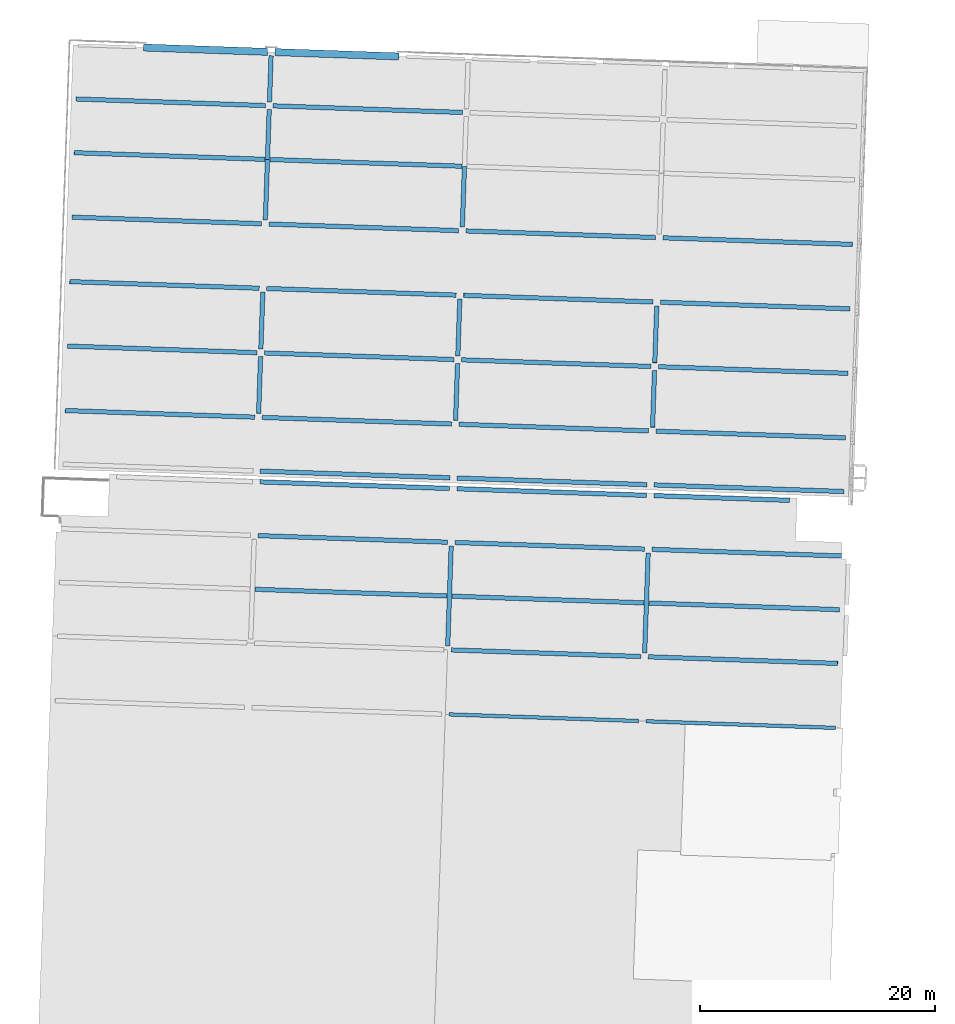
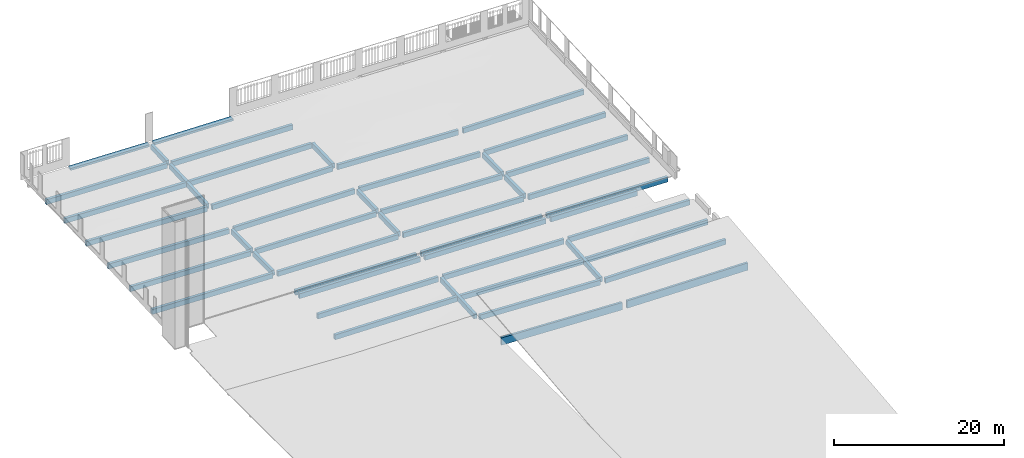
# One storey, part 4 of 17: 50 beams.
"""IFC2X3 building model written with IfcOpenShell, lengths in feet."""

from ifc_helpers import new_model, entity, si_unit, converted_unit, derived_unit, direction, frame, frame_2d, origin, origin_2d_with_axis, place, context, subcontext, project, spatial, rectangle, extrude, clip, halfspace, material, element, save


model = new_model("IFC2X3")

# Units and contexts
model_context = context("Model", 3, precision=0.0001, world=origin(), true_north=direction((0.999390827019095, 0.0348994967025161)))
body_context = subcontext(model_context, "Body", "Model", "MODEL_VIEW")
ifc_project = project(units=[converted_unit("LENGTHUNIT", "FOOT", entity("IfcRatioMeasure", 0.3048), si_unit("LENGTHUNIT", "METRE"), dimensions=[1, 0, 0, 0, 0, 0, 0]), converted_unit("AREAUNIT", "SQUARE FOOT", entity("IfcRatioMeasure", 0.09290304), si_unit("AREAUNIT", "SQUARE_METRE"), dimensions=[2, 0, 0, 0, 0, 0, 0]), converted_unit("VOLUMEUNIT", "CUBIC FOOT", entity("IfcRatioMeasure", 0.028316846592), si_unit("VOLUMEUNIT", "CUBIC_METRE"), dimensions=[3, 0, 0, 0, 0, 0, 0]), converted_unit("PLANEANGLEUNIT", "DEGREE", entity("IfcRatioMeasure", 0.0174532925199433), si_unit("PLANEANGLEUNIT", "RADIAN"), dimensions=[0, 0, 0, 0, 0, 0, 0]), si_unit("MASSUNIT", "GRAM", prefix="KILO"), si_unit("TIMEUNIT", "SECOND"), si_unit("FREQUENCYUNIT", "HERTZ"), si_unit("THERMODYNAMICTEMPERATUREUNIT", "DEGREE_CELSIUS"), derived_unit("THERMALTRANSMITTANCEUNIT", [(si_unit("MASSUNIT", "GRAM", prefix="KILO"), 1), (si_unit("THERMODYNAMICTEMPERATUREUNIT", "KELVIN"), -1), (si_unit("TIMEUNIT", "SECOND"), -3)]), derived_unit("VOLUMETRICFLOWRATEUNIT", [(si_unit("LENGTHUNIT", "METRE"), 3), (si_unit("TIMEUNIT", "SECOND"), -1)]), si_unit("ELECTRICCURRENTUNIT", "AMPERE"), si_unit("ELECTRICVOLTAGEUNIT", "VOLT"), si_unit("POWERUNIT", "WATT"), si_unit("FORCEUNIT", "NEWTON"), si_unit("ILLUMINANCEUNIT", "LUX"), si_unit("LUMINOUSFLUXUNIT", "LUMEN"), si_unit("LUMINOUSINTENSITYUNIT", "CANDELA"), derived_unit("USERDEFINED", [(si_unit("MASSUNIT", "GRAM", prefix="KILO"), -1), (si_unit("LENGTHUNIT", "METRE"), -2), (si_unit("TIMEUNIT", "SECOND"), 3), (si_unit("LUMINOUSFLUXUNIT", "LUMEN"), 1)]), derived_unit("LINEARVELOCITYUNIT", [(si_unit("LENGTHUNIT", "METRE"), 1), (si_unit("TIMEUNIT", "SECOND"), -1)]), si_unit("PRESSUREUNIT", "PASCAL"), derived_unit("USERDEFINED", [(si_unit("LENGTHUNIT", "METRE"), -2), (si_unit("MASSUNIT", "GRAM", prefix="KILO"), 1), (si_unit("TIMEUNIT", "SECOND"), -2)])], contexts=[model_context])

# Site, building, storey
site_placement = place(None, frame((892.518771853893, 322.38689265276, 0.00393700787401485), z_axis=(0.0, 0.0, 1.0), x_axis=(0.0348994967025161, 0.999390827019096, 0.0)))
site = spatial("IfcSite", under=ifc_project, at=site_placement, Name="Default", CompositionType="ELEMENT")
building_placement = place(site_placement, origin())
building = spatial("IfcBuilding", under=site, at=building_placement, CompositionType="ELEMENT")
storey_placement = place(building_placement, frame((0.0, 0.0, 557.0)))
storey = spatial("IfcBuildingStorey", under=building, at=storey_placement, Name="Existing Garage - 1st Level", CompositionType="ELEMENT", Elevation=557.0)

# Beams
ifc_material = material(Name="Concrete - Precast Concrete - Normal Weight - 5 ksi")
beam_1_placement = place(storey_placement, frame((105.927293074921, 236.763953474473, -0.63671875), z_axis=(0.0, 0.0, 1.0), x_axis=(0.0, 1.0, 0.0)))
element("IfcBeam", 1, at=beam_1_placement, inside=storey, material=ifc_material, Name="Precast-Rectangular Beam:15 x 28 (33 w/ 5\" Conc Slab)", ObjectType="Precast-Rectangular Beam:15 x 28 (33 w/ 5\" Conc Slab)", context=body_context, shape_type="SweptSolid", body=[
    extrude(rectangle(XDim=2.33333333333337, YDim=1.25000000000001, at=frame_2d((0.0, 7.105427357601e-15), x_axis=(1.0, 0.0))), frame((1.00119401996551, 0.0, -1.16666666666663), z_axis=(1.0, 0.0, 0.0), x_axis=(0.0, 0.0, -1.0)), (0.0, 0.0, 1.0), 53.0572739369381),
])
beam_2_placement = place(storey_placement, frame((105.927293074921, 346.763953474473, -0.63671875), z_axis=(0.0, 0.0, 1.0), x_axis=(0.0, -1.0, 0.0)))
element("IfcBeam", 2, at=beam_2_placement, inside=storey, material=ifc_material, Name="Precast-Rectangular Beam:15 x 28 (33 w/ 5\" Conc Slab)", ObjectType="Precast-Rectangular Beam:15 x 28 (33 w/ 5\" Conc Slab)", context=body_context, shape_type="SweptSolid", body=[
    extrude(rectangle(XDim=2.33333333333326, YDim=1.25000000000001, at=frame_2d((0.0, 7.105427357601e-15), x_axis=(1.0, 0.0))), frame((1.00119401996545, 0.0, -1.16666666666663), z_axis=(1.0, 0.0, 0.0), x_axis=(0.0, 0.0, -1.0)), (0.0, 0.0, 1.0), 53.0572739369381),
])
beam_3_placement = place(storey_placement, frame((105.927293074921, 346.763953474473, -0.63671875), z_axis=(0.0, 0.0, 1.0), x_axis=(0.0, 1.0, 0.0)))
element("IfcBeam", 3, at=beam_3_placement, inside=storey, material=ifc_material, Name="Precast-Rectangular Beam:15 x 28 (33 w/ 5\" Conc Slab)", ObjectType="Precast-Rectangular Beam:15 x 28 (33 w/ 5\" Conc Slab)", context=body_context, shape_type="SweptSolid", body=[
    extrude(rectangle(XDim=2.33333333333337, YDim=1.25000000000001, at=frame_2d((0.0, -7.105427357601e-15), x_axis=(1.0, 0.0))), frame((1.00119401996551, 0.0, -1.16666666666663), z_axis=(1.0, 0.0, 0.0), x_axis=(0.0, 0.0, -1.0)), (0.0, 0.0, 1.0), 53.0572739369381),
])
beam_4_placement = place(storey_placement, frame((120.927293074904, 236.763953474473, -0.916666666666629), z_axis=(0.0, 0.00400091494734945, 0.999991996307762), x_axis=(0.0, 0.999991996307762, -0.00400091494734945)))
element("IfcBeam", 4, at=beam_4_placement, inside=storey, material=ifc_material, Name="Precast-Rectangular Beam:15 x 28 (33 w/ 5\" Conc Slab)", ObjectType="Precast-Rectangular Beam:15 x 28 (33 w/ 5\" Conc Slab)", context=body_context, shape_type="SweptSolid", body=[
    extrude(rectangle(XDim=2.33333333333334, YDim=1.25000000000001, at=frame_2d((1.11022302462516e-16, 7.105427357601e-15), x_axis=(1.0, 0.0))), frame((1.05101021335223, 0.0, -1.16666666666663), z_axis=(1.0, 0.0, 0.0), x_axis=(0.0, 0.0, -1.0)), (0.0, 0.0, 1.0), 52.9077553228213),
])
beam_5_placement = place(storey_placement, frame((120.927293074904, 346.763953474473, -0.916666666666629), z_axis=(0.0, -0.00400091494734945, 0.999991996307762), x_axis=(0.0, -0.999991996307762, -0.00400091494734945)))
element("IfcBeam", 5, at=beam_5_placement, inside=storey, material=ifc_material, Name="Precast-Rectangular Beam:15 x 28 (33 w/ 5\" Conc Slab)", ObjectType="Precast-Rectangular Beam:15 x 28 (33 w/ 5\" Conc Slab)", context=body_context, shape_type="SweptSolid", body=[
    extrude(rectangle(XDim=2.33333333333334, YDim=1.25000000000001, at=frame_2d((0.0, 7.105427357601e-15), x_axis=(1.0, 0.0))), frame((1.05101021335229, 0.0, -1.16666666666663), z_axis=(1.0, 0.0, 0.0), x_axis=(0.0, 0.0, -1.0)), (0.0, 0.0, 1.0), 52.9077553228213),
])
beam_6_placement = place(storey_placement, frame((120.927293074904, 346.763953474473, -0.916666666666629), z_axis=(0.0, 0.00400091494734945, 0.999991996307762), x_axis=(0.0, 0.999991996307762, -0.00400091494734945)))
element("IfcBeam", 6, at=beam_6_placement, inside=storey, material=ifc_material, Name="Precast-Rectangular Beam:15 x 28 (33 w/ 5\" Conc Slab)", ObjectType="Precast-Rectangular Beam:15 x 28 (33 w/ 5\" Conc Slab)", context=body_context, shape_type="SweptSolid", body=[
    extrude(rectangle(XDim=2.33333333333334, YDim=1.25000000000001, at=frame_2d((-1.11022302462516e-16, -7.105427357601e-15), x_axis=(1.0, 0.0))), frame((1.05101021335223, 0.0, -1.16666666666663), z_axis=(1.0, 0.0, 0.0), x_axis=(0.0, 0.0, -1.0)), (0.0, 0.0, 1.0), 52.9077553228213),
])
beam_7_placement = place(storey_placement, frame((120.927293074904, 456.763953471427, -0.916666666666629), z_axis=(0.0, -0.00400091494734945, 0.999991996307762), x_axis=(0.0, -0.999991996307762, -0.00400091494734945)))
element("IfcBeam", 7, at=beam_7_placement, inside=storey, material=ifc_material, Name="Precast-Rectangular Beam:15 x 28 (33 w/ 5\" Conc Slab)", ObjectType="Precast-Rectangular Beam:15 x 28 (33 w/ 5\" Conc Slab)", context=body_context, shape_type="SweptSolid", body=[
    extrude(rectangle(XDim=2.33333333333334, YDim=1.25000000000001, at=frame_2d((0.0, -7.105427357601e-15), x_axis=(1.0, 0.0))), frame((1.05101021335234, 0.0, -1.16666666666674), z_axis=(1.0, 0.0, 0.0), x_axis=(0.0, 0.0, -1.0)), (0.0, 0.0, 1.0), 52.9077553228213),
])
beam_8_placement = place(storey_placement, frame((138.927293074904, 236.763953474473, -1.32667000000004), z_axis=(0.0, 0.00854514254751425, 0.999963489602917), x_axis=(0.0, 0.999963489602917, -0.00854514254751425)))
element("IfcBeam", 8, at=beam_8_placement, inside=storey, material=ifc_material, Name="Precast-Rectangular Beam:15 x 28 (33 w/ 5\" Conc Slab)", ObjectType="Precast-Rectangular Beam:15 x 28 (33 w/ 5\" Conc Slab)", context=body_context, shape_type="SweptSolid", body=[
    extrude(rectangle(XDim=2.33333333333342, YDim=1.25, at=frame_2d((-1.13686837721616e-13, -1.4210854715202e-14), x_axis=(1.0, 0.0))), frame((1.06164257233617, 0.0, -1.16666666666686), z_axis=(1.0, 0.0, 0.0), x_axis=(0.0, 0.0, -1.0)), (0.0, 0.0, 1.0), 52.8986623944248),
])
beam_9_placement = place(storey_placement, frame((138.927293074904, 346.763953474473, -1.32667000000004), z_axis=(0.0, -0.00854514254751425, 0.999963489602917), x_axis=(0.0, -0.999963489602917, -0.00854514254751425)))
element("IfcBeam", 9, at=beam_9_placement, inside=storey, material=ifc_material, Name="Precast-Rectangular Beam:15 x 28 (33 w/ 5\" Conc Slab)", ObjectType="Precast-Rectangular Beam:15 x 28 (33 w/ 5\" Conc Slab)", context=body_context, shape_type="SweptSolid", body=[
    extrude(rectangle(XDim=2.3333333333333, YDim=1.25, at=frame_2d((1.13686837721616e-13, 0.0), x_axis=(1.0, 0.0))), frame((1.06164257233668, 0.0, -1.16666666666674), z_axis=(1.0, 0.0, 0.0), x_axis=(0.0, 0.0, -1.0)), (0.0, 0.0, 1.0), 52.8986623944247),
])
beam_10_placement = place(storey_placement, frame((138.927293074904, 346.763953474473, -1.32667000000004), z_axis=(0.0, 0.00854514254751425, 0.999963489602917), x_axis=(0.0, 0.999963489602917, -0.00854514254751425)))
element("IfcBeam", 10, at=beam_10_placement, inside=storey, material=ifc_material, Name="Precast-Rectangular Beam:15 x 28 (33 w/ 5\" Conc Slab)", ObjectType="Precast-Rectangular Beam:15 x 28 (33 w/ 5\" Conc Slab)", context=body_context, shape_type="SweptSolid", body=[
    extrude(rectangle(XDim=2.33333333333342, YDim=1.25, at=frame_2d((-1.13686837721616e-13, 0.0), x_axis=(1.0, 0.0))), frame((1.06164257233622, 0.0, -1.16666666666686), z_axis=(1.0, 0.0, 0.0), x_axis=(0.0, 0.0, -1.0)), (0.0, 0.0, 1.0), 52.8986623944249),
])
beam_11_placement = place(storey_placement, frame((138.927293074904, 456.763953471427, -1.32667000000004), z_axis=(0.0, -0.00854514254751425, 0.999963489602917), x_axis=(0.0, -0.999963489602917, -0.00854514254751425)))
element("IfcBeam", 11, at=beam_11_placement, inside=storey, material=ifc_material, Name="Precast-Rectangular Beam:15 x 28 (33 w/ 5\" Conc Slab)", ObjectType="Precast-Rectangular Beam:15 x 28 (33 w/ 5\" Conc Slab)", context=body_context, shape_type="SweptSolid", body=[
    extrude(rectangle(XDim=2.3333333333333, YDim=1.25000000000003, at=frame_2d((1.13686837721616e-13, 1.4210854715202e-14), x_axis=(1.0, 0.0))), frame((1.06164257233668, 0.0, -1.16666666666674), z_axis=(1.0, 0.0, 0.0), x_axis=(0.0, 0.0, -1.0)), (0.0, 0.0, 1.0), 52.8986623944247),
])
beam_12_placement = place(storey_placement, frame((156.927293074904, 236.763953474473, -1.72667000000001), z_axis=(0.0, 0.0130897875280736, 0.999914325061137), x_axis=(0.0, 0.999914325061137, -0.0130897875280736)))
element("IfcBeam", 12, at=beam_12_placement, inside=storey, material=ifc_material, Name="Precast-Rectangular Beam:15 x 28 (33 w/ 5\" Conc Slab)", ObjectType="Precast-Rectangular Beam:15 x 28 (33 w/ 5\" Conc Slab)", context=body_context, shape_type="SweptSolid", body=[
    extrude(rectangle(XDim=2.33333333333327, YDim=1.25, at=frame_2d((0.0, -1.4210854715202e-14), x_axis=(1.0, 0.0))), frame((1.07229780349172, 0.0, -1.16666666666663), z_axis=(1.0, 0.0, 0.0), x_axis=(0.0, 0.0, -1.0)), (0.0, 0.0, 1.0), 52.8906623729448),
])
beam_13_placement = place(storey_placement, frame((156.927293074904, 346.763953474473, -1.72667000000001), z_axis=(0.0, -0.0130897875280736, 0.999914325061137), x_axis=(0.0, -0.999914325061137, -0.0130897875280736)))
element("IfcBeam", 13, at=beam_13_placement, inside=storey, material=ifc_material, Name="Precast-Rectangular Beam:15 x 28 (33 w/ 5\" Conc Slab)", ObjectType="Precast-Rectangular Beam:15 x 28 (33 w/ 5\" Conc Slab)", context=body_context, shape_type="SweptSolid", body=[
    extrude(rectangle(XDim=2.33333333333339, YDim=1.25, at=frame_2d((4.44089209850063e-16, 0.0), x_axis=(1.0, 0.0))), frame((1.07229780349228, 0.0, -1.16666666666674), z_axis=(1.0, 0.0, 0.0), x_axis=(0.0, 0.0, -1.0)), (0.0, 0.0, 1.0), 52.8906623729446),
])
beam_14_placement = place(storey_placement, frame((156.927293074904, 346.763953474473, -1.72667000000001), z_axis=(0.0, 0.0130897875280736, 0.999914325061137), x_axis=(0.0, 0.999914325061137, -0.0130897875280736)))
element("IfcBeam", 14, at=beam_14_placement, inside=storey, material=ifc_material, Name="Precast-Rectangular Beam:15 x 28 (33 w/ 5\" Conc Slab)", ObjectType="Precast-Rectangular Beam:15 x 28 (33 w/ 5\" Conc Slab)", context=body_context, shape_type="SweptSolid", body=[
    extrude(rectangle(XDim=2.33333333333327, YDim=1.25, at=origin_2d_with_axis()), frame((1.07229780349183, 0.0, -1.16666666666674), z_axis=(1.0, 0.0, 0.0), x_axis=(0.0, 0.0, -1.0)), (0.0, 0.0, 1.0), 52.8906623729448),
])
beam_15_placement = place(storey_placement, frame((156.927293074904, 456.763953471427, -1.72667000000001), z_axis=(0.0, -0.0130897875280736, 0.999914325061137), x_axis=(0.0, -0.999914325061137, -0.0130897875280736)))
element("IfcBeam", 15, at=beam_15_placement, inside=storey, material=ifc_material, Name="Precast-Rectangular Beam:15 x 28 (33 w/ 5\" Conc Slab)", ObjectType="Precast-Rectangular Beam:15 x 28 (33 w/ 5\" Conc Slab)", context=body_context, shape_type="SweptSolid", body=[
    extrude(rectangle(XDim=2.33333333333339, YDim=1.25000000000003, at=frame_2d((-4.44089209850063e-16, 1.4210854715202e-14), x_axis=(1.0, 0.0))), frame((1.07229780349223, 0.0, -1.16666666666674), z_axis=(1.0, 0.0, 0.0), x_axis=(0.0, 0.0, -1.0)), (0.0, 0.0, 1.0), 52.8906623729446),
])
beam_16_placement = place(storey_placement, frame((174.927293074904, 236.763953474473, -2.12666999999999), z_axis=(0.0, 0.0178153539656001, 0.999841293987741), x_axis=(0.0, 0.999841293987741, -0.0178153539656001)))
element("IfcBeam", 16, at=beam_16_placement, inside=storey, material=ifc_material, Name="Precast-Rectangular Beam:15 x 28 (33 w/ 5\" Conc Slab)", ObjectType="Precast-Rectangular Beam:15 x 28 (33 w/ 5\" Conc Slab)", context=body_context, shape_type="SweptSolid", body=[
    extrude(rectangle(XDim=2.33333333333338, YDim=1.25, at=frame_2d((-1.13686837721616e-13, -1.4210854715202e-14), x_axis=(1.0, 0.0))), frame((1.08340115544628, 0.0, -1.16666666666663), z_axis=(1.0, 0.0, 0.0), x_axis=(0.0, 0.0, -1.0)), (0.0, 0.0, 1.0), 52.8835036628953),
])
beam_17_placement = place(storey_placement, frame((174.927293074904, 346.763953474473, -2.12666999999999), z_axis=(0.0, -0.0178153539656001, 0.999841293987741), x_axis=(0.0, -0.999841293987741, -0.0178153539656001)))
element("IfcBeam", 17, at=beam_17_placement, inside=storey, material=ifc_material, Name="Precast-Rectangular Beam:15 x 28 (33 w/ 5\" Conc Slab)", ObjectType="Precast-Rectangular Beam:15 x 28 (33 w/ 5\" Conc Slab)", context=body_context, shape_type="SweptSolid", body=[
    extrude(rectangle(XDim=2.33333333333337, YDim=1.25, at=frame_2d((1.13686837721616e-13, 0.0), x_axis=(1.0, 0.0))), frame((1.08340115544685, 0.0, -1.16666666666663), z_axis=(1.0, 0.0, 0.0), x_axis=(0.0, 0.0, -1.0)), (0.0, 0.0, 1.0), 52.8835036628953),
])
beam_18_placement = place(storey_placement, frame((174.927293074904, 346.763953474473, -2.12666999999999), z_axis=(0.0, 0.0178153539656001, 0.999841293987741), x_axis=(0.0, 0.999841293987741, -0.0178153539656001)))
element("IfcBeam", 18, at=beam_18_placement, inside=storey, material=ifc_material, Name="Precast-Rectangular Beam:15 x 28 (33 w/ 5\" Conc Slab)", ObjectType="Precast-Rectangular Beam:15 x 28 (33 w/ 5\" Conc Slab)", context=body_context, shape_type="SweptSolid", body=[
    extrude(rectangle(XDim=2.33333333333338, YDim=1.25, at=frame_2d((-1.13686837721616e-13, 0.0), x_axis=(1.0, 0.0))), frame((1.08340115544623, 0.0, -1.16666666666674), z_axis=(1.0, 0.0, 0.0), x_axis=(0.0, 0.0, -1.0)), (0.0, 0.0, 1.0), 52.8835036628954),
])
beam_19_placement = place(storey_placement, frame((174.927293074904, 456.763953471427, -2.12666999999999), z_axis=(0.0, -0.0178153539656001, 0.999841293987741), x_axis=(0.0, -0.999841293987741, -0.0178153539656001)))
element("IfcBeam", 19, at=beam_19_placement, inside=storey, material=ifc_material, Name="Precast-Rectangular Beam:15 x 28 (33 w/ 5\" Conc Slab)", ObjectType="Precast-Rectangular Beam:15 x 28 (33 w/ 5\" Conc Slab)", context=body_context, shape_type="SweptSolid", body=[
    extrude(rectangle(XDim=2.33333333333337, YDim=1.25000000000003, at=frame_2d((1.13686837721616e-13, -1.4210854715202e-14), x_axis=(1.0, 0.0))), frame((1.08340115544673, 0.0, -1.16666666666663), z_axis=(1.0, 0.0, 0.0), x_axis=(0.0, 0.0, -1.0)), (0.0, 0.0, 1.0), 52.8835036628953),
])
beam_20_placement = place(storey_placement, frame((174.927293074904, 346.763953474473, -2.12666999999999), z_axis=(0.0222167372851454, 0.0, 0.99975317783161), x_axis=(0.99975317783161, 0.0, -0.0222167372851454)))
element("IfcBeam", 20, at=beam_20_placement, inside=storey, material=ifc_material, Name="Precast-Rectangular Beam:15 x 28 (33 w/ 5\" Conc Slab)", ObjectType="Precast-Rectangular Beam:15 x 28 (33 w/ 5\" Conc Slab)", context=body_context, shape_type="SweptSolid", body=[
    extrude(rectangle(XDim=2.3333333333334, YDim=1.25, at=origin_2d_with_axis()), frame((1.09376540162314, 0.0, -1.16666666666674), z_axis=(1.0, 0.0, 0.0), x_axis=(0.0, 0.0, -1.0)), (0.0, 0.0, 1.0), 16.9106784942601),
])
beam_21_placement = place(storey_placement, frame((174.927293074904, 401.763953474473, -3.10667000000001), z_axis=(-0.0133321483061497, 0.0, 0.999911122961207), x_axis=(0.999911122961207, 0.0, 0.0133321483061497)))
element("IfcBeam", 21, at=beam_21_placement, inside=storey, material=ifc_material, Name="Precast-Rectangular Beam:15 x 28 (33 w/ 5\" Conc Slab)", ObjectType="Precast-Rectangular Beam:15 x 28 (33 w/ 5\" Conc Slab)", context=body_context, shape_type="Clipping", body=[
    clip(extrude(rectangle(XDim=2.33333333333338, YDim=1.25, at=origin_2d_with_axis()), frame((1.04175555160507, 0.0, -1.16666666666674), z_axis=(1.0, 0.0, 0.0), x_axis=(0.0, 0.0, -1.0)), (0.0, 0.0, 1.0), 16.959844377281), halfspace(frame((18.0015999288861, 0.0, 0.0), z_axis=(0.999931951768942, 0.0, -0.0116658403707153), x_axis=(0.0, 1.0, 0.0)), False)),
])
beam_22_placement = place(storey_placement, frame((192.927293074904, 401.763953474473, -2.86667), z_axis=(0.00999950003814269, 0.0, 0.999950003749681), x_axis=(0.999950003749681, 0.0, -0.00999950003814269)))
element("IfcBeam", 22, at=beam_22_placement, inside=storey, material=ifc_material, Name="Precast-Rectangular Beam:15 x 28 (33 w/ 5\" Conc Slab)", ObjectType="Precast-Rectangular Beam:15 x 28 (33 w/ 5\" Conc Slab)", context=body_context, shape_type="Clipping", body=[
    clip(extrude(rectangle(XDim=2.33333333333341, YDim=1.25, at=origin_2d_with_axis()), frame((0.0, 0.0, -1.16666666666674), z_axis=(1.0, 0.0, 0.0), x_axis=(0.0, 0.0, -1.0)), (0.0, 0.0, 1.0), 13.9590333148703), halfspace(frame((0.0, 0.0, 0.0), z_axis=(-0.999931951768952, 0.0, -0.0116658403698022), x_axis=(0.0, -1.0, 0.0)), False)),
])
beam_23_placement = place(storey_placement, frame((120.927293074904, 291.763953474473, -1.13666999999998), z_axis=(0.0366420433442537, 0.0, 0.99932845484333), x_axis=(0.99932845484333, 0.0, -0.0366420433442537)))
element("IfcBeam", 23, at=beam_23_placement, inside=storey, material=ifc_material, Name="Precast-Rectangular Beam:15 x 28 (33 w/ 5\" Conc Slab)", ObjectType="Precast-Rectangular Beam:15 x 28 (33 w/ 5\" Conc Slab)", context=body_context, shape_type="SweptSolid", body=[
    extrude(rectangle(XDim=2.33333333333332, YDim=1.25, at=frame_2d((-5.7065463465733e-14, 0.0), x_axis=(1.0, 0.0))), frame((1.12789421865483, 0.0, -1.16666666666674), z_axis=(1.0, 0.0, 0.0), x_axis=(0.0, 0.0, -1.0)), (0.0, 0.0, 1.0), 15.841863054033),
])
beam_24_placement = place(storey_placement, frame((138.927293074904, 291.763953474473, -1.79666999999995), z_axis=(0.036087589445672, 0.0, 0.999348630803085), x_axis=(0.999348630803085, 0.0, -0.036087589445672)))
element("IfcBeam", 24, at=beam_24_placement, inside=storey, material=ifc_material, Name="Precast-Rectangular Beam:15 x 28 (33 w/ 5\" Conc Slab)", ObjectType="Precast-Rectangular Beam:15 x 28 (33 w/ 5\" Conc Slab)", context=body_context, shape_type="SweptSolid", body=[
    extrude(rectangle(XDim=2.3333333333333, YDim=1.25, at=frame_2d((1.13575815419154e-13, 0.0), x_axis=(1.0, 0.0))), frame((1.12657771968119, 0.0, -1.16666666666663), z_axis=(1.0, 0.0, 0.0), x_axis=(0.0, 0.0, -1.0)), (0.0, 0.0, 1.0), 15.842836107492),
])
beam_25_placement = place(storey_placement, frame((192.927293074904, 346.763953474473, -2.52666999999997), z_axis=(0.0, 0.00618170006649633, 0.999980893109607), x_axis=(0.0, 0.999980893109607, -0.00618170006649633)))
element("IfcBeam", 25, at=beam_25_placement, inside=storey, material=ifc_material, Name="Precast-Rectangular Beam:15 x 28 (33 w/ 5\" Conc Slab)", ObjectType="Precast-Rectangular Beam:15 x 28 (33 w/ 5\" Conc Slab)", context=body_context, shape_type="SweptSolid", body=[
    extrude(rectangle(XDim=2.33333333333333, YDim=1.25, at=frame_2d((-5.6843418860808e-14, 1.4210854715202e-14), x_axis=(1.0, 0.0))), frame((0.681169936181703, 0.0, -1.16666666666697), z_axis=(1.0, 0.0, 0.0), x_axis=(0.0, 0.0, -1.0)), (0.0, 0.0, 1.0), 53.6531876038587),
])
beam_26_placement = place(storey_placement, frame((192.927293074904, 456.763953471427, -2.52666999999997), z_axis=(0.0, -0.00618170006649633, 0.999980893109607), x_axis=(0.0, -0.999980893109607, -0.00618170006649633)))
element("IfcBeam", 26, at=beam_26_placement, inside=storey, material=ifc_material, Name="Precast-Rectangular Beam:15 x 28 (33 w/ 5\" Conc Slab)", ObjectType="Precast-Rectangular Beam:15 x 28 (33 w/ 5\" Conc Slab)", context=body_context, shape_type="SweptSolid", body=[
    extrude(rectangle(XDim=2.33333333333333, YDim=1.25, at=frame_2d((-5.6843418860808e-14, 0.0), x_axis=(1.0, 0.0))), frame((1.05611001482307, 0.0, -1.16666666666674), z_axis=(1.0, 0.0, 0.0), x_axis=(0.0, 0.0, -1.0)), (0.0, 0.0, 1.0), 53.2782861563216),
])
beam_27_placement = place(storey_placement, frame((207.927293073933, 346.763953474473, -2.86667), z_axis=(0.0, 0.00272726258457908, 0.999996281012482), x_axis=(0.0, 0.999996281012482, -0.00272726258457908)))
element("IfcBeam", 27, at=beam_27_placement, inside=storey, material=ifc_material, Name="Precast-Rectangular Beam:15 x 28 (33 w/ 5\" Conc Slab)", ObjectType="Precast-Rectangular Beam:15 x 28 (33 w/ 5\" Conc Slab)", context=body_context, shape_type="SweptSolid", body=[
    extrude(rectangle(XDim=2.33333333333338, YDim=1.25, at=frame_2d((0.0, -1.4210854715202e-14), x_axis=(1.0, 0.0))), frame((1.04803402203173, 0.0, -1.16666666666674), z_axis=(1.0, 0.0, 0.0), x_axis=(0.0, 0.0, -1.0)), (0.0, 0.0, 1.0), 52.9105001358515),
])
beam_28_placement = place(storey_placement, frame((207.927293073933, 456.763953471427, -2.86667), z_axis=(0.0, -0.00272726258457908, 0.999996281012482), x_axis=(0.0, -0.999996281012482, -0.00272726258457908)))
element("IfcBeam", 28, at=beam_28_placement, inside=storey, material=ifc_material, Name="Precast-Rectangular Beam:15 x 28 (33 w/ 5\" Conc Slab)", ObjectType="Precast-Rectangular Beam:15 x 28 (33 w/ 5\" Conc Slab)", context=body_context, shape_type="SweptSolid", body=[
    extrude(rectangle(XDim=2.33333333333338, YDim=1.25, at=frame_2d((-1.13686837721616e-13, 0.0), x_axis=(1.0, 0.0))), frame((1.04803402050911, 0.0, -1.16666666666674), z_axis=(1.0, 0.0, 0.0), x_axis=(0.0, 0.0, -1.0)), (0.0, 0.0, 1.0), 52.9105001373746),
])
beam_29_placement = place(storey_placement, frame((120.927293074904, 346.763953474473, -0.916669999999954), z_axis=(0.022771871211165, 0.0, 0.999740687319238), x_axis=(0.999740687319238, 0.0, -0.022771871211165)))
element("IfcBeam", 29, at=beam_29_placement, inside=storey, material=ifc_material, Name="Precast-Rectangular Beam:15 x 28 (33 w/ 5\" Conc Slab)", ObjectType="Precast-Rectangular Beam:15 x 28 (33 w/ 5\" Conc Slab)", context=body_context, shape_type="SweptSolid", body=[
    extrude(rectangle(XDim=2.33333333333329, YDim=1.25, at=origin_2d_with_axis()), frame((1.0950741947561, 0.0, -1.16666666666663), z_axis=(1.0, 0.0, 0.0), x_axis=(0.0, 0.0, -1.0)), (0.0, 0.0, 1.0), 15.8676685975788),
])
beam_30_placement = place(storey_placement, frame((138.927293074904, 346.763953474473, -1.32667000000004), z_axis=(0.0222107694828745, 0.0, 0.999753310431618), x_axis=(0.999753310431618, 0.0, -0.0222107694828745)))
element("IfcBeam", 30, at=beam_30_placement, inside=storey, material=ifc_material, Name="Precast-Rectangular Beam:15 x 28 (33 w/ 5\" Conc Slab)", ObjectType="Precast-Rectangular Beam:15 x 28 (33 w/ 5\" Conc Slab)", context=body_context, shape_type="SweptSolid", body=[
    extrude(rectangle(XDim=2.33333333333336, YDim=1.25, at=frame_2d((5.6843418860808e-14, 0.0), x_axis=(1.0, 0.0))), frame((1.09375133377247, 0.0, -1.16666666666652), z_axis=(1.0, 0.0, 0.0), x_axis=(0.0, 0.0, -1.0)), (0.0, 0.0, 1.0), 15.8687767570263),
])
beam_31_placement = place(storey_placement, frame((120.927293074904, 401.76395347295, -1.13666999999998), z_axis=(0.0366420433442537, 0.0, 0.99932845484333), x_axis=(0.99932845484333, 0.0, -0.0366420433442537)))
element("IfcBeam", 31, at=beam_31_placement, inside=storey, material=ifc_material, Name="Precast-Rectangular Beam:15 x 28 (33 w/ 5\" Conc Slab)", ObjectType="Precast-Rectangular Beam:15 x 28 (33 w/ 5\" Conc Slab)", context=body_context, shape_type="SweptSolid", body=[
    extrude(rectangle(XDim=2.33333333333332, YDim=1.25, at=frame_2d((-5.7065463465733e-14, 0.0), x_axis=(1.0, 0.0))), frame((1.12789421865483, 0.0, -1.16666666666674), z_axis=(1.0, 0.0, 0.0), x_axis=(0.0, 0.0, -1.0)), (0.0, 0.0, 1.0), 15.841863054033),
])
beam_32_placement = place(storey_placement, frame((138.927293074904, 401.76395347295, -1.79666999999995), z_axis=(0.036087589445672, 0.0, 0.999348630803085), x_axis=(0.999348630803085, 0.0, -0.036087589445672)))
element("IfcBeam", 32, at=beam_32_placement, inside=storey, material=ifc_material, Name="Precast-Rectangular Beam:15 x 28 (33 w/ 5\" Conc Slab)", ObjectType="Precast-Rectangular Beam:15 x 28 (33 w/ 5\" Conc Slab)", context=body_context, shape_type="SweptSolid", body=[
    extrude(rectangle(XDim=2.3333333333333, YDim=1.25, at=frame_2d((1.13575815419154e-13, 0.0), x_axis=(1.0, 0.0))), frame((1.12657771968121, 0.0, -1.16666666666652), z_axis=(1.0, 0.0, 0.0), x_axis=(0.0, 0.0, -1.0)), (0.0, 0.0, 1.0), 15.842836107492),
])
beam_33_placement = place(storey_placement, frame((222.927293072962, 401.763953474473, -3.21667000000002), z_axis=(0.0133321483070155, 0.0, 0.999911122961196), x_axis=(-0.999911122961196, 0.0, 0.0133321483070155)))
element("IfcBeam", 33, at=beam_33_placement, inside=storey, material=ifc_material, Name="Precast-Rectangular Beam:15 x 28 (33 w/ 5\" Conc Slab)", ObjectType="Precast-Rectangular Beam:15 x 28 (33 w/ 5\" Conc Slab)", context=body_context, shape_type="SweptSolid", body=[
    extrude(rectangle(XDim=2.3333333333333, YDim=1.25, at=origin_2d_with_axis()), frame((1.04175555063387, 0.0, -1.16666666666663), z_axis=(1.0, 0.0, 0.0), x_axis=(0.0, 0.0, -1.0)), (0.0, 0.0, 1.0), 12.8867110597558),
])
beam_34_placement = place(storey_placement, frame((222.927293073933, 365.097286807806, -3.02666999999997), z_axis=(0.0, 0.00518174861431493, 0.999986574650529), x_axis=(0.0, 0.999986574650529, -0.00518174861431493)))
element("IfcBeam", 34, at=beam_34_placement, inside=storey, material=ifc_material, Name="Precast-Rectangular Beam:24 x 12", ObjectType="Precast-Rectangular Beam:24 x 12", context=body_context, shape_type="SweptSolid", body=[
    extrude(rectangle(XDim=0.999999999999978, YDim=2.0, at=frame_2d((-5.68711744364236e-14, -1.4210854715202e-14), x_axis=(1.0, 0.0))), frame((1.04686191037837, 0.0, -0.5), z_axis=(1.0, 0.0, 0.0), x_axis=(0.0, 0.0, -1.0)), (0.0, 0.0, 1.0), 34.5786169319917),
])
beam_35_placement = place(storey_placement, frame((222.927293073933, 438.430620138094, -3.16666999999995), z_axis=(0.0, -0.00136363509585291, 0.999999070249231), x_axis=(0.0, -0.999999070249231, -0.00136363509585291)))
element("IfcBeam", 35, at=beam_35_placement, inside=storey, material=ifc_material, Name="Precast-Rectangular Beam:24 x 12", ObjectType="Precast-Rectangular Beam:24 x 12", context=body_context, shape_type="SweptSolid", body=[
    extrude(rectangle(XDim=1.00000000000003, YDim=2.00000000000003, at=frame_2d((-1.13742348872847e-13, 1.4210854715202e-14), x_axis=(1.0, 0.0))), frame((1.04303123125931, 0.0, -0.5), z_axis=(1.0, 0.0, 0.0), x_axis=(0.0, 0.0, -1.0)), (0.0, 0.0, 1.0), 34.5820019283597),
])
beam_36_placement = place(storey_placement, frame((57.9272542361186, 346.763953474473, -0.746744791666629), z_axis=(0.0, -0.0152695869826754, 0.999883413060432), x_axis=(0.0, -0.999883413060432, -0.0152695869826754)))
element("IfcBeam", 36, at=beam_36_placement, inside=storey, material=ifc_material, Name="Precast-Rectangular Beam:15 x 28 (33 w/ 5\" Conc Slab)", ObjectType="Precast-Rectangular Beam:15 x 28 (33 w/ 5\" Conc Slab)", context=body_context, shape_type="SweptSolid", body=[
    extrude(rectangle(XDim=2.33333333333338, YDim=1.25000000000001, at=frame_2d((-1.13686837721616e-13, 0.0), x_axis=(1.0, 0.0))), frame((1.07741645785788, 0.0, -1.16666666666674), z_axis=(1.0, 0.0, 0.0), x_axis=(0.0, 0.0, -1.0)), (0.0, 0.0, 1.0), 52.8872133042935),
])
beam_37_placement = place(storey_placement, frame((57.9272542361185, 291.763953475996, -1.58667000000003), z_axis=(0.0, 0.0212679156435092, 0.999773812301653), x_axis=(0.0, -0.999773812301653, 0.0212679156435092)))
element("IfcBeam", 37, at=beam_37_placement, inside=storey, material=ifc_material, Name="Precast-Rectangular Beam:15 x 28 (33 w/ 5\" Conc Slab)", ObjectType="Precast-Rectangular Beam:15 x 28 (33 w/ 5\" Conc Slab)", context=body_context, shape_type="SweptSolid", body=[
    extrude(rectangle(XDim=2.33333333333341, YDim=1.25000000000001, at=frame_2d((0.0, 7.105427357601e-15), x_axis=(1.0, 0.0))), frame((1.04189290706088, 0.0, -1.16666666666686), z_axis=(1.0, 0.0, 0.0), x_axis=(0.0, 0.0, -1.0)), (0.0, 0.0, 1.0), 52.8790209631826),
])
beam_38_placement = place(storey_placement, frame((57.9272542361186, 346.763953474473, -0.746669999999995), z_axis=(-0.00731685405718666, 0.0, 0.999973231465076), x_axis=(0.999973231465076, 0.0, 0.00731685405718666)))
element("IfcBeam", 38, at=beam_38_placement, inside=storey, material=ifc_material, Name="Precast-Rectangular Beam:15 x 28 (33 w/ 5\" Conc Slab)", ObjectType="Precast-Rectangular Beam:15 x 28 (33 w/ 5\" Conc Slab)", context=body_context, shape_type="SweptSolid", body=[
    extrude(rectangle(XDim=2.33333333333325, YDim=1.25, at=origin_2d_with_axis()), frame((1.04169343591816, 0.0, -1.16666666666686), z_axis=(1.0, 0.0, 0.0), x_axis=(0.0, 0.0, -1.0)), (0.0, 0.0, 1.0), 27.9003856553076),
])
beam_39_placement = place(storey_placement, frame((72.9272975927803, 346.763953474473, -0.636913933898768), z_axis=(0.0, 0.0101768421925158, 0.999948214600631), x_axis=(0.0, 0.999948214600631, -0.0101768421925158)))
element("IfcBeam", 39, at=beam_39_placement, inside=storey, material=ifc_material, Name="Precast-Rectangular Beam:15 x 28 (33 w/ 5\" Conc Slab)", ObjectType="Precast-Rectangular Beam:15 x 28 (33 w/ 5\" Conc Slab)", context=body_context, shape_type="SweptSolid", body=[
    extrude(rectangle(XDim=2.33333333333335, YDim=1.25000000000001, at=frame_2d((-1.14019904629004e-13, -7.105427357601e-15), x_axis=(1.0, 0.0))), frame((0.690427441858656, 0.0, -1.16666666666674), z_axis=(1.0, 0.0, 0.0), x_axis=(0.0, 0.0, -1.0)), (0.0, 0.0, 1.0), 53.6457218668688),
])
beam_40_placement = place(storey_placement, frame((57.9272542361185, 291.763953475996, -1.58667000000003), z_axis=(-0.0259911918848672, 0.0, 0.999662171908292), x_axis=(0.999662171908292, 0.0, 0.0259911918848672)))
element("IfcBeam", 40, at=beam_40_placement, inside=storey, material=ifc_material, Name="Precast-Rectangular Beam:15 x 28 (33 w/ 5\" Conc Slab)", ObjectType="Precast-Rectangular Beam:15 x 28 (33 w/ 5\" Conc Slab)", context=body_context, shape_type="SweptSolid", body=[
    extrude(rectangle(XDim=2.3333333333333, YDim=1.25, at=origin_2d_with_axis()), frame((1.04200460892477, 0.0, -1.16666666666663), z_axis=(1.0, 0.0, 0.0), x_axis=(0.0, 0.0, -1.0)), (0.0, 0.0, 1.0), 27.8655050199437),
])
beam_41_placement = place(storey_placement, frame((72.9272968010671, 236.763953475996, -0.416669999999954), z_axis=(0.0, 0.0141803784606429, 0.999899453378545), x_axis=(1.43933357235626e-08, 0.999899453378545, -0.0141803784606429)))
element("IfcBeam", 41, at=beam_41_placement, inside=storey, material=ifc_material, Name="Precast-Rectangular Beam:15 x 28 (33 w/ 5\" Conc Slab)", ObjectType="Precast-Rectangular Beam:15 x 28 (33 w/ 5\" Conc Slab)", context=body_context, shape_type="SweptSolid", body=[
    extrude(rectangle(XDim=2.33333333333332, YDim=1.25000000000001, at=frame_2d((-1.13908882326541e-13, -7.105427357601e-15), x_axis=(1.0, 0.0))), frame((1.07485810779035, 0.0, -1.16666666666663), z_axis=(1.0, 0.0, 0.0), x_axis=(0.0, 0.0, -1.0)), (0.0, 0.0, 1.0), 53.2639430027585),
])
beam_42_placement = place(storey_placement, frame((72.9272975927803, 346.763953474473, -0.636913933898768), z_axis=(0.0, -0.0101768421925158, 0.999948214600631), x_axis=(0.0, -0.999948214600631, -0.0101768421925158)))
element("IfcBeam", 42, at=beam_42_placement, inside=storey, material=ifc_material, Name="Precast-Rectangular Beam:15 x 28 (33 w/ 5\" Conc Slab)", ObjectType="Precast-Rectangular Beam:15 x 28 (33 w/ 5\" Conc Slab)", context=body_context, shape_type="SweptSolid", body=[
    extrude(rectangle(XDim=2.33333333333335, YDim=1.25000000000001, at=frame_2d((-3.33066907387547e-16, -7.105427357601e-15), x_axis=(1.0, 0.0))), frame((0.690427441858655, 0.0, -1.16666666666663), z_axis=(1.0, 0.0, 0.0), x_axis=(0.0, 0.0, -1.0)), (0.0, 0.0, 1.0), 53.6457218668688),
])
beam_43_placement = place(storey_placement, frame((87.9272968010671, 236.763953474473, -0.416669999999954), z_axis=(0.0, 0.00708952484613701, 0.999974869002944), x_axis=(0.0, 0.999974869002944, -0.00708952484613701)))
element("IfcBeam", 43, at=beam_43_placement, inside=storey, material=ifc_material, Name="Precast-Rectangular Beam:15 x 28 (33 w/ 5\" Conc Slab)", ObjectType="Precast-Rectangular Beam:15 x 28 (33 w/ 5\" Conc Slab)", context=body_context, shape_type="SweptSolid", body=[
    extrude(rectangle(XDim=2.33333333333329, YDim=1.25000000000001, at=frame_2d((-1.11022302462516e-16, 7.105427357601e-15), x_axis=(1.0, 0.0))), frame((1.05823443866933, 0.0, -1.16666666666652), z_axis=(1.0, 0.0, 0.0), x_axis=(0.0, 0.0, -1.0)), (0.0, 0.0, 1.0), 52.9014560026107),
])
beam_44_placement = place(storey_placement, frame((87.9272968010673, 346.763953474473, -0.526666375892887), z_axis=(0.0, -0.00508970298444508, 0.99998704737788), x_axis=(0.0, -0.99998704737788, -0.00508970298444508)))
element("IfcBeam", 44, at=beam_44_placement, inside=storey, material=ifc_material, Name="Precast-Rectangular Beam:15 x 28 (33 w/ 5\" Conc Slab)", ObjectType="Precast-Rectangular Beam:15 x 28 (33 w/ 5\" Conc Slab)", context=body_context, shape_type="SweptSolid", body=[
    extrude(rectangle(XDim=2.33333333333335, YDim=1.25000000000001, at=frame_2d((5.6843418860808e-14, -7.105427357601e-15), x_axis=(1.0, 0.0))), frame((1.05355574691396, 0.0, -1.16666666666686), z_axis=(1.0, 0.0, 0.0), x_axis=(0.0, 0.0, -1.0)), (0.0, 0.0, 1.0), 52.9054770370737),
])
beam_45_placement = place(storey_placement, frame((87.9272968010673, 346.763953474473, -0.526666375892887), z_axis=(0.0, 0.00508970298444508, 0.99998704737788), x_axis=(0.0, 0.99998704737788, -0.00508970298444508)))
element("IfcBeam", 45, at=beam_45_placement, inside=storey, material=ifc_material, Name="Precast-Rectangular Beam:15 x 28 (33 w/ 5\" Conc Slab)", ObjectType="Precast-Rectangular Beam:15 x 28 (33 w/ 5\" Conc Slab)", context=body_context, shape_type="SweptSolid", body=[
    extrude(rectangle(XDim=2.33333333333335, YDim=1.25000000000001, at=frame_2d((-5.6843418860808e-14, -7.105427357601e-15), x_axis=(1.0, 0.0))), frame((1.0535557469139, 0.0, -1.16666666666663), z_axis=(1.0, 0.0, 0.0), x_axis=(0.0, 0.0, -1.0)), (0.0, 0.0, 1.0), 52.9054770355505),
])
beam_46_placement = place(storey_placement, frame((102.927296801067, 251.763182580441, -0.416669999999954), z_axis=(0.0, 0.0, 1.0), x_axis=(0.0, 1.0, 0.0)))
element("IfcBeam", 46, at=beam_46_placement, inside=storey, material=ifc_material, Name="Precast-Rectangular Beam:15 x 28 (33 w/ 5\" Conc Slab)", ObjectType="Precast-Rectangular Beam:15 x 28 (33 w/ 5\" Conc Slab)", context=body_context, shape_type="SweptSolid", body=[
    extrude(rectangle(XDim=2.33333333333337, YDim=1.25000000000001, at=frame_2d((0.0, -1.4210854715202e-14), x_axis=(1.0, 0.0))), frame((1.04166666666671, 0.0, -1.16666666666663), z_axis=(1.0, 0.0, 0.0), x_axis=(0.0, 0.0, -1.0)), (0.0, 0.0, 1.0), 37.9174375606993),
])
beam_47_placement = place(storey_placement, frame((102.927296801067, 291.763953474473, -0.416669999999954), z_axis=(0.0, 0.0, 1.0), x_axis=(0.0, 1.0, 0.0)))
element("IfcBeam", 47, at=beam_47_placement, inside=storey, material=ifc_material, Name="Precast-Rectangular Beam:15 x 28 (33 w/ 5\" Conc Slab)", ObjectType="Precast-Rectangular Beam:15 x 28 (33 w/ 5\" Conc Slab)", context=body_context, shape_type="SweptSolid", body=[
    extrude(rectangle(XDim=2.33333333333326, YDim=1.25000000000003, at=frame_2d((0.0, -7.105427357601e-15), x_axis=(1.0, 0.0))), frame((1.04166666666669, 0.0, -1.16666666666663), z_axis=(1.0, 0.0, 0.0), x_axis=(0.0, 0.0, -1.0)), (0.0, 0.0, 1.0), 52.9166666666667),
])
beam_48_placement = place(storey_placement, frame((102.927296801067, 401.763953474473, -0.416669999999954), z_axis=(0.0, 0.0, 1.0), x_axis=(0.0, -1.0, 0.0)))
element("IfcBeam", 48, at=beam_48_placement, inside=storey, material=ifc_material, Name="Precast-Rectangular Beam:15 x 28 (33 w/ 5\" Conc Slab)", ObjectType="Precast-Rectangular Beam:15 x 28 (33 w/ 5\" Conc Slab)", context=body_context, shape_type="SweptSolid", body=[
    extrude(rectangle(XDim=2.33333333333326, YDim=1.25000000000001, at=frame_2d((0.0, 7.105427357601e-15), x_axis=(1.0, 0.0))), frame((1.04166666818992, 0.0, -1.16666666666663), z_axis=(1.0, 0.0, 0.0), x_axis=(0.0, 0.0, -1.0)), (0.0, 0.0, 1.0), 52.9166666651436),
])
beam_49_placement = place(storey_placement, frame((39.9272542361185, 236.763953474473, -0.416669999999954), z_axis=(0.0, 0.0121809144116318, 0.999925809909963), x_axis=(0.0, 0.999925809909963, -0.0121809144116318)))
element("IfcBeam", 49, at=beam_49_placement, inside=storey, material=ifc_material, Name="Precast-Rectangular Beam:12 x 42 (47 w/ 5\" Conc Slab)", ObjectType="Precast-Rectangular Beam:12 x 42 (47 w/ 5\" Conc Slab)", context=body_context, shape_type="SweptSolid", body=[
    extrude(rectangle(XDim=3.49999999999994, YDim=1.00000000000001, at=frame_2d((0.0, -3.5527136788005e-15), x_axis=(1.0, 0.0))), frame((1.08437722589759, 0.0, -1.75), z_axis=(1.0, 0.0, 0.0), x_axis=(0.0, 0.0, -1.0)), (0.0, 0.0, 1.0), 52.877962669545),
])
beam_50_placement = place(storey_placement, frame((39.9272542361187, 346.763953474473, -0.416669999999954), z_axis=(0.0, -0.0121809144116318, 0.999925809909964), x_axis=(0.0, -0.999925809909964, -0.0121809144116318)))
element("IfcBeam", 50, at=beam_50_placement, inside=storey, material=ifc_material, Name="Precast-Rectangular Beam:12 x 42 (47 w/ 5\" Conc Slab)", ObjectType="Precast-Rectangular Beam:12 x 42 (47 w/ 5\" Conc Slab)", context=body_context, shape_type="SweptSolid", body=[
    extrude(rectangle(XDim=3.50000000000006, YDim=1.00000000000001, at=frame_2d((0.0, 7.105427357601e-15), x_axis=(1.0, 0.0))), frame((1.08437722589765, 0.0, -1.75000000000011), z_axis=(1.0, 0.0, 0.0), x_axis=(0.0, 0.0, -1.0)), (0.0, 0.0, 1.0), 52.8779626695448),
])

save(model, "model.ifc")
